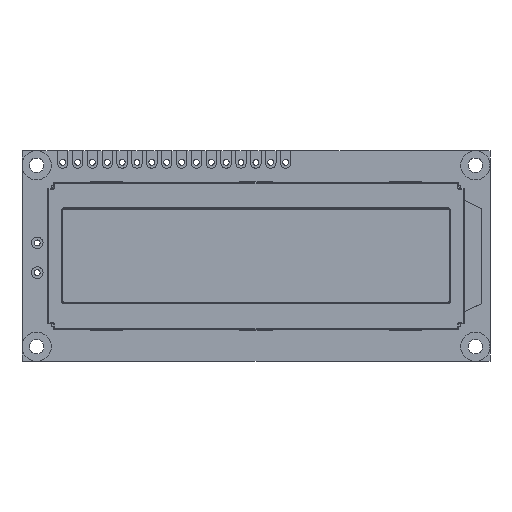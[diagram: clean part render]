
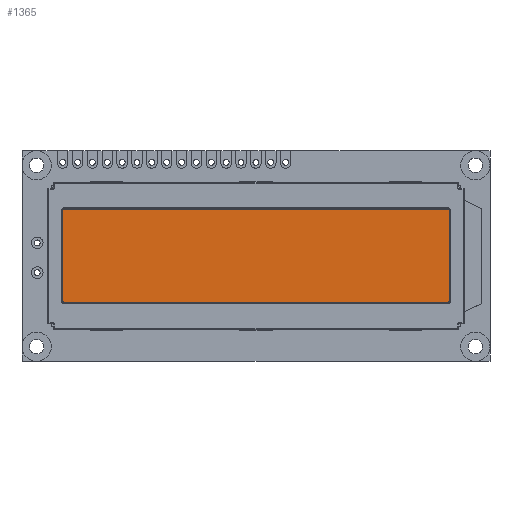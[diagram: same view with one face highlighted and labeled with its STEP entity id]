
A CAD part, top view. The second image highlights one B-rep face of the part: STEP entity #1365.
In plain terms, the highlighted planar face has unit normal (0, 0, 1).
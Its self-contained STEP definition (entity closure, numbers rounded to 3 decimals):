
#1365=ADVANCED_FACE('',(#2845),#2846,.T.);
#2845=FACE_OUTER_BOUND('',#4742,.T.);
#2846=PLANE('',#4743);
#4742=EDGE_LOOP('',(#7262,#7263,#7264,#7265));
#4743=AXIS2_PLACEMENT_3D('',#7266,#7267,#7268);
#7262=ORIENTED_EDGE('',*,*,#10945,.T.);
#7263=ORIENTED_EDGE('',*,*,#10946,.T.);
#7264=ORIENTED_EDGE('',*,*,#10947,.T.);
#7265=ORIENTED_EDGE('',*,*,#10948,.T.);
#7266=CARTESIAN_POINT('',(40.0,18.0,10.326));
#7267=DIRECTION('',(0.0,0.0,1.0));
#7268=DIRECTION('',(1.0,0.0,0.0));
#10945=EDGE_CURVE('',#12984,#12985,#12986,.T.);
#10946=EDGE_CURVE('',#12985,#12987,#12988,.T.);
#10947=EDGE_CURVE('',#12987,#12989,#12990,.T.);
#10948=EDGE_CURVE('',#12989,#12984,#12991,.T.);
#12984=VERTEX_POINT('',#15811);
#12985=VERTEX_POINT('',#15812);
#12986=LINE('',#15813,#15814);
#12987=VERTEX_POINT('',#15815);
#12988=LINE('',#15816,#15817);
#12989=VERTEX_POINT('',#15818);
#12990=LINE('',#15819,#15820);
#12991=LINE('',#15821,#15822);
#15811=CARTESIAN_POINT('',(73.0,10.0,10.326));
#15812=CARTESIAN_POINT('',(73.0,26.0,10.326));
#15813=CARTESIAN_POINT('',(73.0,18.0,10.326));
#15814=VECTOR('',#18884,1.0);
#15815=CARTESIAN_POINT('',(7.0,26.0,10.326));
#15816=CARTESIAN_POINT('',(40.0,26.0,10.326));
#15817=VECTOR('',#18885,1.0);
#15818=CARTESIAN_POINT('',(7.0,10.0,10.326));
#15819=CARTESIAN_POINT('',(7.0,18.0,10.326));
#15820=VECTOR('',#18886,1.0);
#15821=CARTESIAN_POINT('',(40.0,10.0,10.326));
#15822=VECTOR('',#18887,1.0);
#18884=DIRECTION('',(0.0,1.0,0.0));
#18885=DIRECTION('',(-1.0,0.0,0.0));
#18886=DIRECTION('',(0.0,-1.0,0.0));
#18887=DIRECTION('',(1.0,0.0,0.0));
